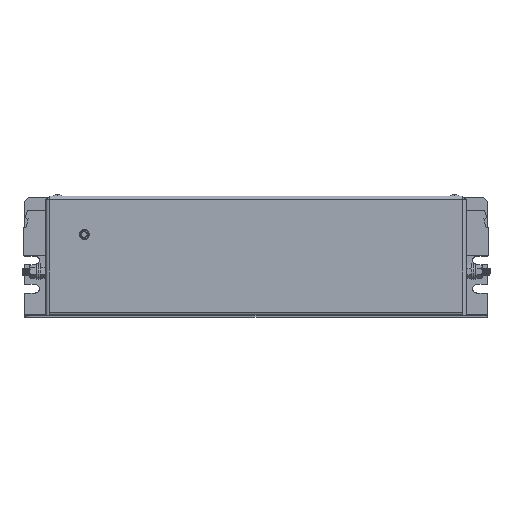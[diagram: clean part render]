
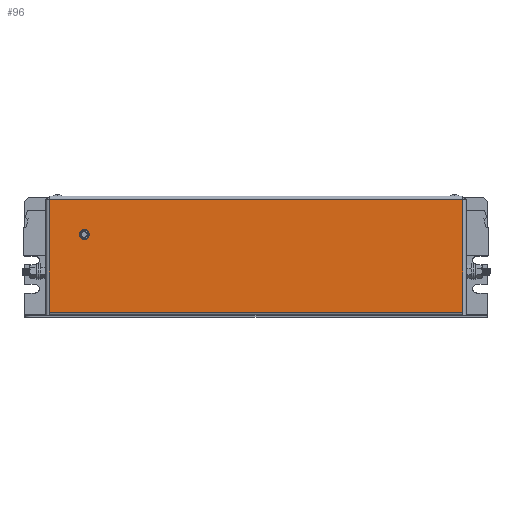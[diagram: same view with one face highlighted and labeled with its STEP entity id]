
A CAD part, top view. The second image highlights one B-rep face of the part: STEP entity #96.
In plain terms, the highlighted planar face has unit normal (0, 0, 1).
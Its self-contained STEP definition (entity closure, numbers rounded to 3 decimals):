
#96 = ADVANCED_FACE ( 'NONE', ( #10873, #21514 ), #7956, .F. ) ;
#122 = DIRECTION ( 'NONE',  ( 1., 0., 0. ) ) ;
#1661 = DIRECTION ( 'NONE',  ( 0., 1., 0. ) ) ;
#1753 = CIRCLE ( 'NONE', #14643, 3.4 ) ;
#1797 = LINE ( 'NONE', #4856, #18416 ) ;
#2195 = CARTESIAN_POINT ( 'NONE',  ( 290.6, 0., 1.2 ) ) ;
#3141 = DIRECTION ( 'NONE',  ( 0., -1., 0. ) ) ;
#3199 = LINE ( 'NONE', #8494, #8104 ) ;
#3418 = DIRECTION ( 'NONE',  ( 0., 0., 1. ) ) ;
#3870 = EDGE_CURVE ( 'NONE', #5657, #12614, #4792, .T. ) ;
#4130 = EDGE_CURVE ( 'NONE', #20542, #11307, #1753, .T. ) ;
#4324 = ORIENTED_EDGE ( 'NONE', *, *, #22131, .T. ) ;
#4478 = VERTEX_POINT ( 'NONE', #6155 ) ;
#4522 = CARTESIAN_POINT ( 'NONE',  ( 21.4, 56.8, 1.2 ) ) ;
#4792 = LINE ( 'NONE', #13795, #5868 ) ;
#4856 = CARTESIAN_POINT ( 'NONE',  ( 0., 2.2, 1.2 ) ) ;
#5189 = VERTEX_POINT ( 'NONE', #22247 ) ;
#5491 = ORIENTED_EDGE ( 'NONE', *, *, #6797, .T. ) ;
#5533 = ORIENTED_EDGE ( 'NONE', *, *, #4130, .F. ) ;
#5540 = ORIENTED_EDGE ( 'NONE', *, *, #3870, .T. ) ;
#5657 = VERTEX_POINT ( 'NONE', #18898 ) ;
#5677 = EDGE_LOOP ( 'NONE', ( #5491, #4324, #17216, #15819, #19067, #5540 ) ) ;
#5868 = VECTOR ( 'NONE', #3141, 1000. ) ;
#6155 = CARTESIAN_POINT ( 'NONE',  ( 0., 81.6, 1.2 ) ) ;
#6337 = EDGE_CURVE ( 'NONE', #11307, #20542, #20335, .T. ) ;
#6797 = EDGE_CURVE ( 'NONE', #12614, #5189, #1797, .T. ) ;
#7020 = EDGE_CURVE ( 'NONE', #4478, #5657, #15675, .T. ) ;
#7470 = CARTESIAN_POINT ( 'NONE',  ( 0., 2.2, 1.2 ) ) ;
#7481 = LINE ( 'NONE', #2195, #14555 ) ;
#7819 = VERTEX_POINT ( 'NONE', #11496 ) ;
#7956 = PLANE ( 'NONE',  #21496 ) ;
#8104 = VECTOR ( 'NONE', #1661, 1000. ) ;
#8280 = LINE ( 'NONE', #8960, #8560 ) ;
#8398 = DIRECTION ( 'NONE',  ( 0., 0., -1. ) ) ;
#8494 = CARTESIAN_POINT ( 'NONE',  ( 290.6, 0., 1.2 ) ) ;
#8560 = VECTOR ( 'NONE', #14312, 1000. ) ;
#8624 = DIRECTION ( 'NONE',  ( -1., 0., 0. ) ) ;
#8960 = CARTESIAN_POINT ( 'NONE',  ( 0., 81.6, 1.2 ) ) ;
#9389 = ORIENTED_EDGE ( 'NONE', *, *, #6337, .F. ) ;
#9927 = DIRECTION ( 'NONE',  ( 1., 0., 0. ) ) ;
#10383 = CARTESIAN_POINT ( 'NONE',  ( 0., 81.6, 1.2 ) ) ;
#10873 = FACE_BOUND ( 'NONE', #21795, .T. ) ;
#10904 = AXIS2_PLACEMENT_3D ( 'NONE', #20835, #3418, #12164 ) ;
#11251 = CARTESIAN_POINT ( 'NONE',  ( 290.6, 81.35, 1.2 ) ) ;
#11307 = VERTEX_POINT ( 'NONE', #14221 ) ;
#11496 = CARTESIAN_POINT ( 'NONE',  ( 290.6, 81.6, 1.2 ) ) ;
#12164 = DIRECTION ( 'NONE',  ( 1., 0., 0. ) ) ;
#12370 = DIRECTION ( 'NONE',  ( 0., -1., 0. ) ) ;
#12614 = VERTEX_POINT ( 'NONE', #7470 ) ;
#13756 = EDGE_CURVE ( 'NONE', #7819, #4478, #8280, .T. ) ;
#13795 = CARTESIAN_POINT ( 'NONE',  ( 0., 81.35, 1.2 ) ) ;
#14221 = CARTESIAN_POINT ( 'NONE',  ( 28.2, 56.8, 1.2 ) ) ;
#14312 = DIRECTION ( 'NONE',  ( -1., 0., 0. ) ) ;
#14555 = VECTOR ( 'NONE', #17960, 1000. ) ;
#14643 = AXIS2_PLACEMENT_3D ( 'NONE', #17519, #16032, #122 ) ;
#15675 = LINE ( 'NONE', #17555, #22199 ) ;
#15819 = ORIENTED_EDGE ( 'NONE', *, *, #13756, .T. ) ;
#16032 = DIRECTION ( 'NONE',  ( 0., 0., 1. ) ) ;
#17216 = ORIENTED_EDGE ( 'NONE', *, *, #18494, .T. ) ;
#17519 = CARTESIAN_POINT ( 'NONE',  ( 24.8, 56.8, 1.2 ) ) ;
#17555 = CARTESIAN_POINT ( 'NONE',  ( 0., 0., 1.2 ) ) ;
#17960 = DIRECTION ( 'NONE',  ( 0., 1., 0. ) ) ;
#18416 = VECTOR ( 'NONE', #9927, 1000. ) ;
#18494 = EDGE_CURVE ( 'NONE', #21052, #7819, #3199, .T. ) ;
#18898 = CARTESIAN_POINT ( 'NONE',  ( 0., 81.35, 1.2 ) ) ;
#19067 = ORIENTED_EDGE ( 'NONE', *, *, #7020, .T. ) ;
#20335 = CIRCLE ( 'NONE', #10904, 3.4 ) ;
#20542 = VERTEX_POINT ( 'NONE', #4522 ) ;
#20835 = CARTESIAN_POINT ( 'NONE',  ( 24.8, 56.8, 1.2 ) ) ;
#21052 = VERTEX_POINT ( 'NONE', #11251 ) ;
#21496 = AXIS2_PLACEMENT_3D ( 'NONE', #10383, #8398, #8624 ) ;
#21514 = FACE_OUTER_BOUND ( 'NONE', #5677, .T. ) ;
#21795 = EDGE_LOOP ( 'NONE', ( #9389, #5533 ) ) ;
#22131 = EDGE_CURVE ( 'NONE', #5189, #21052, #7481, .T. ) ;
#22199 = VECTOR ( 'NONE', #12370, 1000. ) ;
#22247 = CARTESIAN_POINT ( 'NONE',  ( 290.6, 2.2, 1.2 ) ) ;
